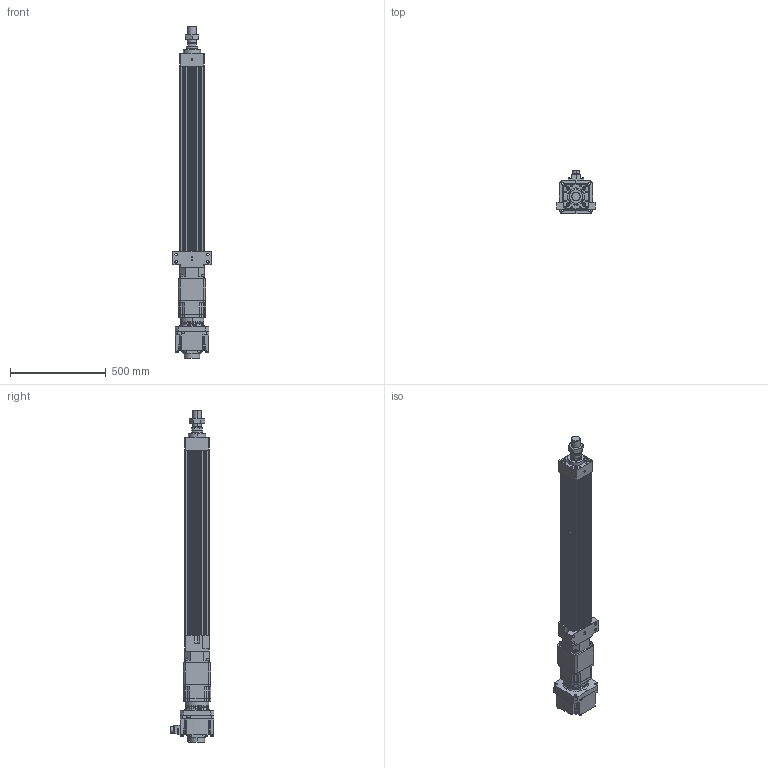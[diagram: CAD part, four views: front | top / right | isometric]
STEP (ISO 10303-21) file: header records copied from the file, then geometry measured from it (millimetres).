
FILE_DESCRIPTION (( 'STEP AP203' ), '1' );
FILE_NAME ('HES130FS(HS)-S750-W020G00-M-FFC.STEP', '2023-01-31T03:32:28', ( 'tms' ), ( '' ), 'SwSTEP 2.0', 'SolidWorks 2013', '' );
FILE_SCHEMA (( 'CONFIG_CONTROL_DESIGN' ));
Length unit declared in the file: millimetre
Products named in the file (9): AB142-003[HG-SR352]; HG-SR202; HES130-S750-G142-FFC; P0403500801; AB1421; HES130 ROD M ST750; P1301500001; HES130FS(HS)-S750-W020G00-M-FFC; M45X1.5P
Assembly tree (8 placements, depth 3):
  HES130FS(HS)-S750-W020G00-M-FFC
    HES130-S750-G142-FFC
    HES130 ROD M ST750
    M45X1.5P
    AB142-003[HG-SR352]
      AB1421
      P1301500001
      P0403500801
    HG-SR202
Bounding box: 200 x 228.85 x 1737.5 mm (x, y, z)
Volume: 15113068.2 mm3; surface area: 2006860.9 mm2
Topology: 4 solids, 22 shells, 1546 faces, 3982 edges, 2565 vertices
Faces by surface type: cylinder 694, plane 586, cone 184, bspline 76, torus 6
Entity records: 55838 total; most frequent: CARTESIAN_POINT 16862, DIRECTION 8160, ORIENTED_EDGE 7822, EDGE_CURVE 3933, AXIS2_PLACEMENT_3D 3080, VERTEX_POINT 2565, LINE 2000, VECTOR 2000
